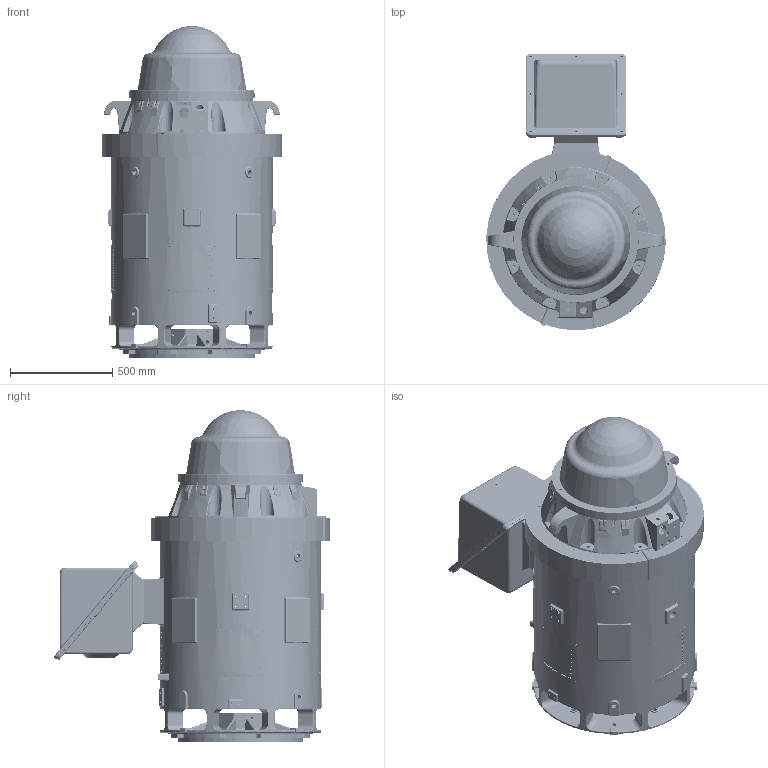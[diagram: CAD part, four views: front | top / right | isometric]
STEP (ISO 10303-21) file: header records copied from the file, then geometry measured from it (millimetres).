
FILE_DESCRIPTION((''),'2;1');
FILE_NAME('5008_VERT_OPEN_245_3_BOX_ASM','2019-12-18T11:13:19',('NMC2304'),('Nidec Motor Corporation'),'CREO PARAMETRIC BY PTC INC, 2019080','CREO PARAMETRIC BY PTC INC, 2019080','');
FILE_SCHEMA(('CONFIG_CONTROL_DESIGN'));
Products named in the file (16): 2071829; 0478402-000; 0478404; 0617283; 2071879; 2071878; 2072152_GRILL; 2072150_ASY; 0476016-000; 0617261; 0842897; 0411031; 0452521; 0475638; 0475629; 5008_VERT_OPEN_245_3_BOX_ASM
Assembly tree (19 placements, depth 2):
  5008_VERT_OPEN_245_3_BOX_ASM
    2071829
    0478402-000
    0478404
    0617283
    2071879
    2071878
    2072152_GRILL
    2072150_ASY  x4
    0476016-000
    0617261
    0842897  x2
    0411031
    0452521
    0475638
    0475629
Bounding box: 875.83 x 1350.36 x 1621.46 mm (x, y, z)
Volume: 103771378.8 mm3; surface area: 16896542.5 mm2
Topology: 19 solids, 129 shells, 7236 faces, 19301 edges, 12147 vertices
Faces by surface type: bspline 3416, cylinder 1871, plane 1005, torus 485, cone 235, sphere 224
Entity records: 223079 total; most frequent: CARTESIAN_POINT 105018, ORIENTED_EDGE 26274, DIRECTION 21699, EDGE_CURVE 13357, AXIS2_PLACEMENT_3D 8598, VERTEX_POINT 8227, EDGE_LOOP 5936, FACE_OUTER_BOUND 5268
